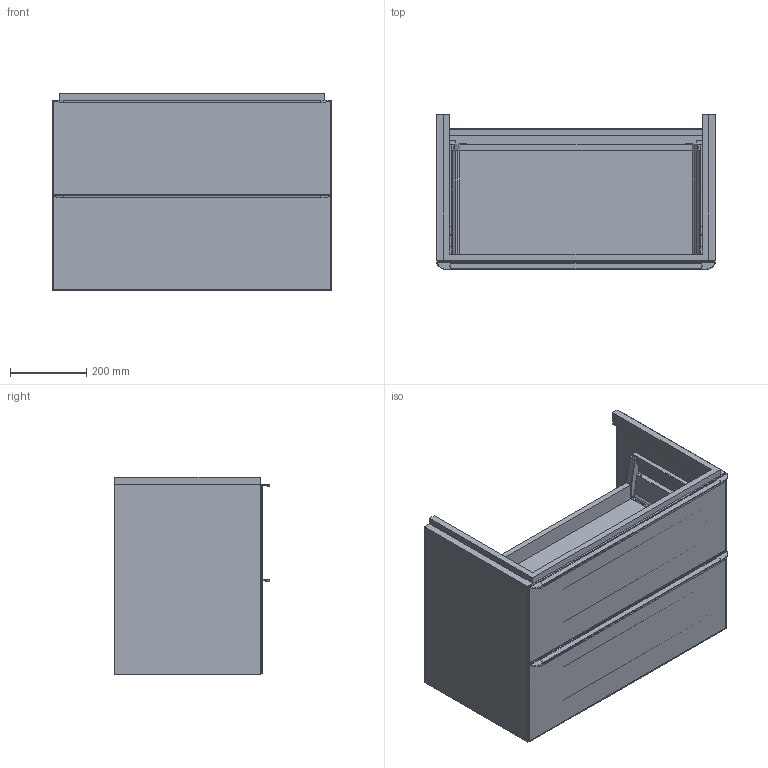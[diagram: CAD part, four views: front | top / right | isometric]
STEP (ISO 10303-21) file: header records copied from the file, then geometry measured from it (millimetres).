
FILE_DESCRIPTION(/* description */ (''),/* implementation_level */ '2;1');
FILE_NAME(/* name */ '3D983D~1',/* time_stamp */ '2018-05-07T18:08:50+02:00',/* author */ (''),/* organization */ (''),/* preprocessor_version */ 'ST-DEVELOPER v15',/* originating_system */ '',/* authorisation */ '');
FILE_SCHEMA (('AUTOMOTIVE_DESIGN'));
Length unit declared in the file: millimetre
Products named in the file (30): Document; Parte162; Parte160; Parte158; Parte156; Parte154; Parte148; Parte146; Parte144; Parte142; Parte140; Parte138; Parte136; Parte134; Parte132; Parte126; Parte124; Parte122; Parte120; Parte118; Parte104; Parte102; Parte100; Parte98; Parte96; Parte94; Parte92; Parte90; Parte88; Parte86
Assembly tree (29 placements, depth 2):
  Document
    Parte162
    Parte160
    Parte158
    Parte156
    Parte154
    Parte148
    Parte146
    Parte144
    Parte142
    Parte140
    Parte138
    Parte136
    Parte134
    Parte132
    Parte126
    Parte124
    Parte122
    Parte120
    Parte118
    Parte104
    Parte102
    Parte100
    Parte98
    Parte96
    Parte94
    Parte92
    Parte90
    Parte88
    Parte86
Bounding box: 734 x 408 x 518 mm (x, y, z)
Volume: 25223811 mm3; surface area: 5115853.3 mm2
Topology: 29 solids, 29 shells, 1258 faces, 3476 edges, 2334 vertices
Faces by surface type: plane 886, bspline 372
Entity records: 41726 total; most frequent: CARTESIAN_POINT 18287, ORIENTED_EDGE 6952, EDGE_CURVE 3476, B_SPLINE_CURVE_WITH_KNOTS 2743, VERTEX_POINT 2334, EDGE_LOOP 1416, ADVANCED_FACE 1258, FACE_OUTER_BOUND 1258
